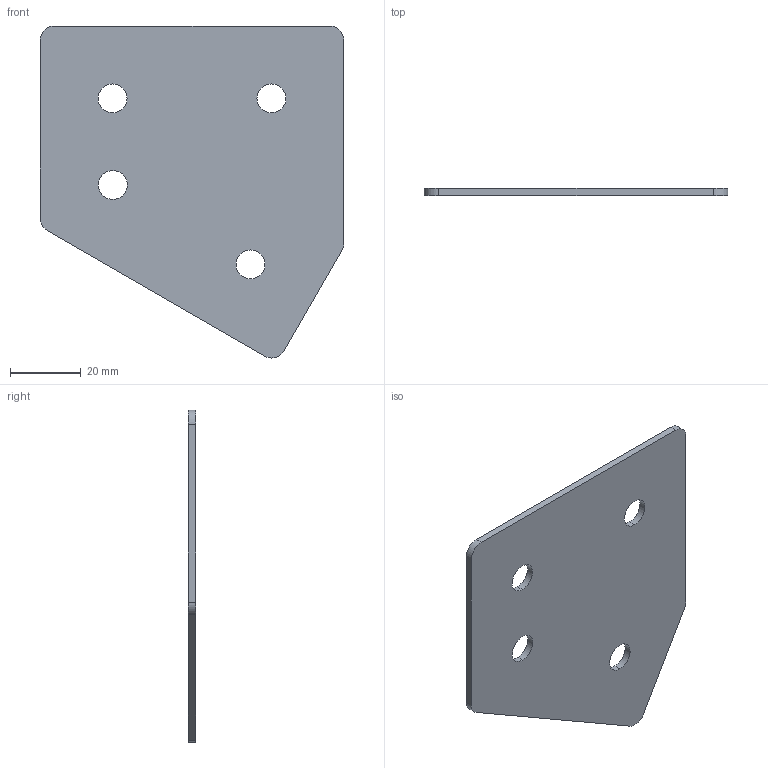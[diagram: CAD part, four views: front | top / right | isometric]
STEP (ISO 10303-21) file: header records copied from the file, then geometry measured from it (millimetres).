
FILE_DESCRIPTION (( 'STEP AP214' ), '1' );
FILE_NAME ('Ï-4-óãîë 30-50.STEP', '2017-08-16T05:31:44', ( '' ), ( '' ), 'SwSTEP 2.0', 'SolidWorks 2014', '' );
FILE_SCHEMA (( 'AUTOMOTIVE_DESIGN' ));
Length unit declared in the file: millimetre
Products named in the file (2): Ï-4-óãîë 30-50
Bounding box: 86 x 2 x 94.04 mm (x, y, z)
Volume: 12766.7 mm3; surface area: 13603 mm2
Topology: 1 solids, 1 shells, 20 faces, 54 edges, 36 vertices
Faces by surface type: cylinder 13, plane 7
Entity records: 929 total; most frequent: DIRECTION 124, CARTESIAN_POINT 112, ORIENTED_EDGE 108, EDGE_CURVE 54, AXIS2_PLACEMENT_3D 48, VERTEX_POINT 36, VECTOR 28, LINE 28
